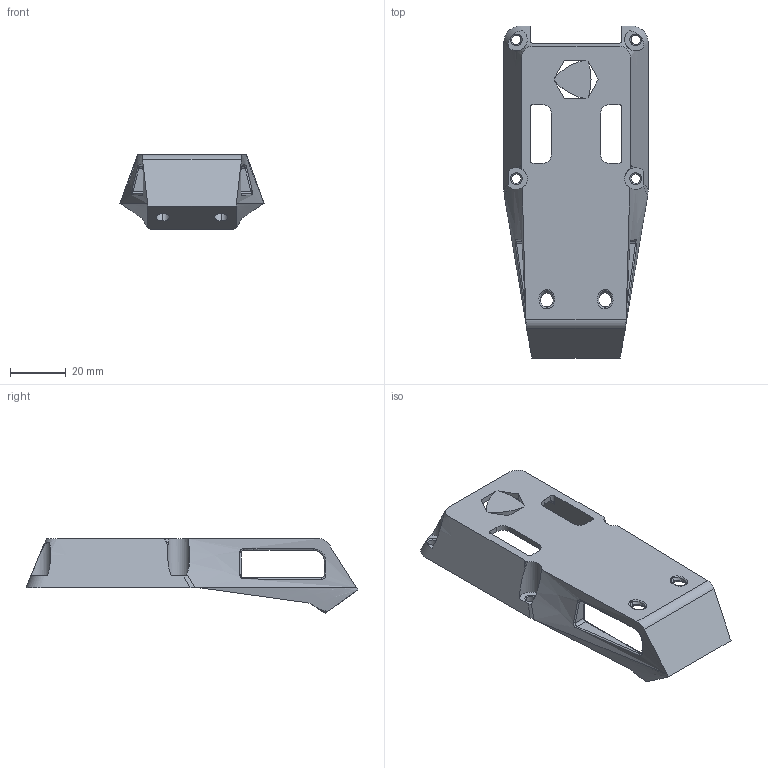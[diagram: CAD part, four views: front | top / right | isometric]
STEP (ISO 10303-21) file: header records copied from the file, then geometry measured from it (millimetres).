
FILE_DESCRIPTION (( 'STEP AP214' ), '1' );
FILE_NAME ('Gripper Finger Mount for WSG 032-068.STEP', '2021-05-07T20:55:17', ( '' ), ( '' ), 'SwSTEP 2.0', 'SolidWorks 2020', '' );
FILE_SCHEMA (( 'AUTOMOTIVE_DESIGN' ));
Length unit declared in the file: millimetre
Products named in the file (1): Gripper Finger Mount for WSG 032-068
Bounding box: 52 x 119.63 x 26.8 mm (x, y, z)
Volume: 27844.1 mm3; surface area: 18743.8 mm2
Topology: 1 solids, 1 shells, 198 faces, 527 edges, 328 vertices
Faces by surface type: cylinder 77, bspline 47, plane 46, cone 18, torus 10
Entity records: 8249 total; most frequent: CARTESIAN_POINT 3638, ORIENTED_EDGE 1050, DIRECTION 844, EDGE_CURVE 525, VERTEX_POINT 328, AXIS2_PLACEMENT_3D 327, EDGE_LOOP 227, FACE_OUTER_BOUND 198
